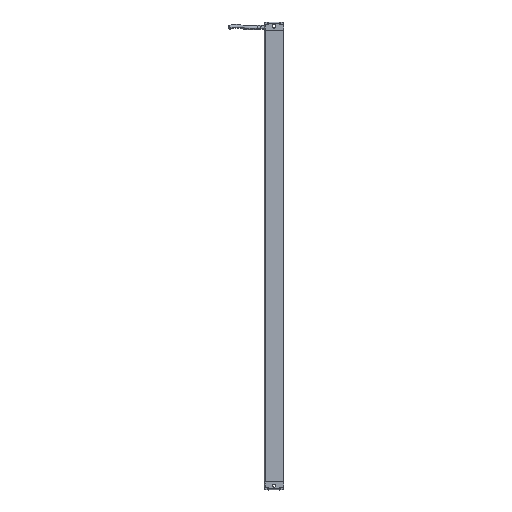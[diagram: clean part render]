
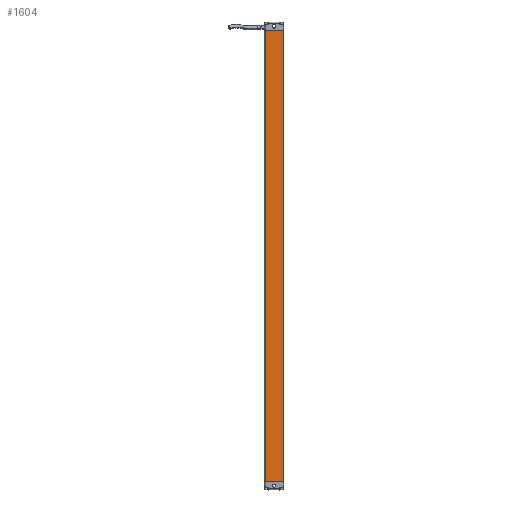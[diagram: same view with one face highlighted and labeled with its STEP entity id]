
A CAD part, front view. The second image highlights one B-rep face of the part: STEP entity #1604.
In plain terms, the highlighted planar face has unit normal (-0.001, -1, 0).
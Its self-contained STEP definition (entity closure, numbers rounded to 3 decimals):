
#1604=ADVANCED_FACE('',(#2720),#2349,.T.);
#2349=PLANE('',#14604);
#2720=FACE_OUTER_BOUND('',#3441,.T.);
#3441=EDGE_LOOP('',(#4477,#4478,#4479,#4480));
#4477=ORIENTED_EDGE('',*,*,#10104,.T.);
#4478=ORIENTED_EDGE('',*,*,#10057,.F.);
#4479=ORIENTED_EDGE('',*,*,#10102,.T.);
#4480=ORIENTED_EDGE('',*,*,#10105,.T.);
#8601=VERTEX_POINT('',#19884);
#8602=VERTEX_POINT('',#19886);
#8639=VERTEX_POINT('',#19975);
#8640=VERTEX_POINT('',#19979);
#10057=EDGE_CURVE('',#8601,#8602,#12174,.T.);
#10102=EDGE_CURVE('',#8601,#8639,#12205,.T.);
#10104=EDGE_CURVE('',#8640,#8602,#12206,.T.);
#10105=EDGE_CURVE('',#8639,#8640,#12207,.T.);
#12174=LINE('',#19885,#13389);
#12205=LINE('',#19974,#13420);
#12206=LINE('',#19978,#13421);
#12207=LINE('',#19980,#13422);
#13389=VECTOR('',#16033,1.);
#13420=VECTOR('',#16106,1.);
#13421=VECTOR('',#16111,1.);
#13422=VECTOR('',#16112,1.);
#14604=AXIS2_PLACEMENT_3D('',#19981,#16113,#16114);
#16033=DIRECTION('',(1.,-0.001,0.));
#16106=DIRECTION('',(0.,0.,-1.));
#16111=DIRECTION('',(0.,0.,1.));
#16112=DIRECTION('',(1.,-0.001,0.));
#16113=DIRECTION('',(-0.001,-1.,0.));
#16114=DIRECTION('',(1.,-0.001,0.));
#19884=CARTESIAN_POINT('',(53.048,-142.376,840.376));
#19885=CARTESIAN_POINT('',(79.028,-142.395,840.376));
#19886=CARTESIAN_POINT('',(79.028,-142.395,840.376));
#19974=CARTESIAN_POINT('',(53.048,-142.376,543.376));
#19975=CARTESIAN_POINT('',(53.048,-142.376,198.376));
#19978=CARTESIAN_POINT('',(79.028,-142.395,198.376));
#19979=CARTESIAN_POINT('',(79.028,-142.395,198.376));
#19980=CARTESIAN_POINT('',(53.048,-142.376,198.376));
#19981=CARTESIAN_POINT('',(79.028,-142.395,543.376));
